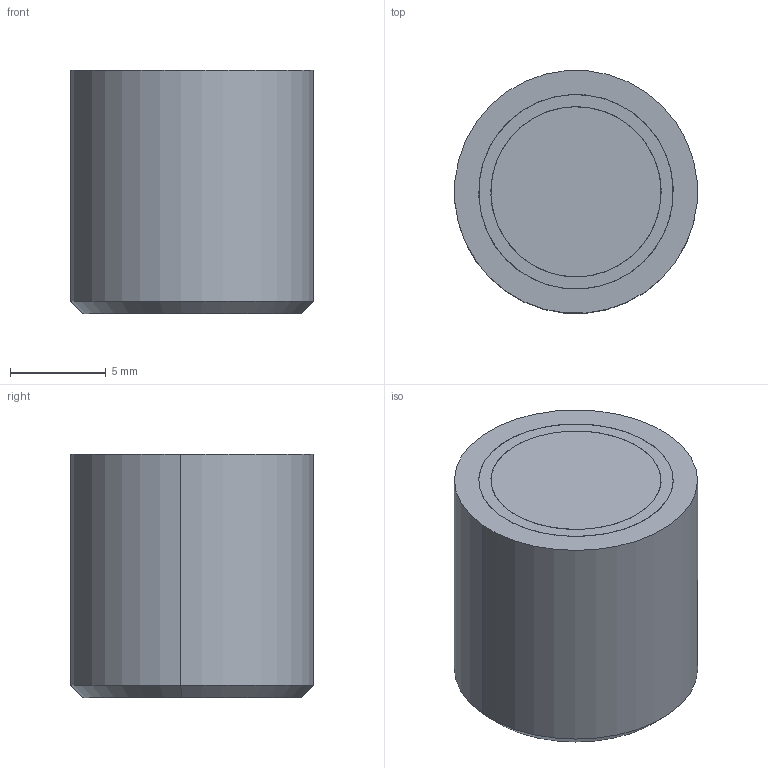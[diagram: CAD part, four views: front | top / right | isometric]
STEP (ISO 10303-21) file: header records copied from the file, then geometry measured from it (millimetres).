
FILE_DESCRIPTION (( 'STEP AP203' ), '1' );
FILE_NAME ('A500.STEP', '2018-08-17T18:41:13', ( '' ), ( '' ), 'SwSTEP 2.0', 'SolidWorks 2015', '' );
FILE_SCHEMA (( 'CONFIG_CONTROL_DESIGN' ));
Length unit declared in the file: inch
Products named in the file (1): A500
Bounding box: 12.66 x 12.66 x 12.7 mm (x, y, z)
Volume: 1545 mm3; surface area: 2149.8 mm2
Topology: 3 solids, 3 shells, 25 faces, 50 edges, 31 vertices
Faces by surface type: cylinder 14, plane 7, cone 4
Entity records: 731 total; most frequent: DIRECTION 130, CARTESIAN_POINT 105, ORIENTED_EDGE 96, AXIS2_PLACEMENT_3D 56, EDGE_CURVE 48, VERTEX_POINT 31, EDGE_LOOP 31, CIRCLE 30
